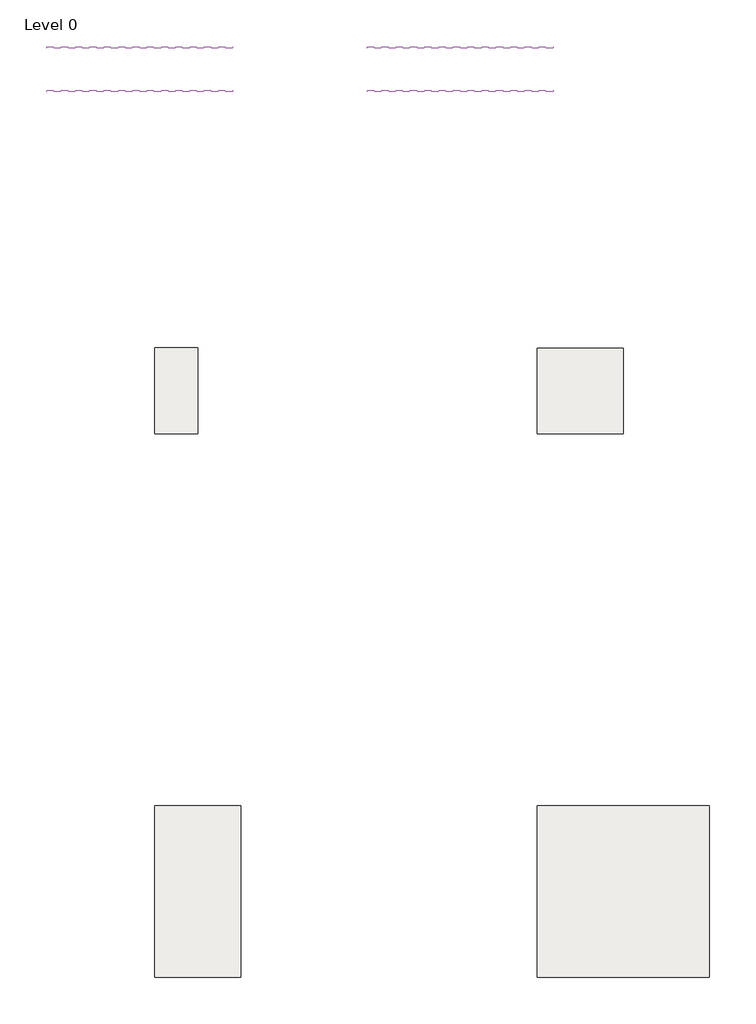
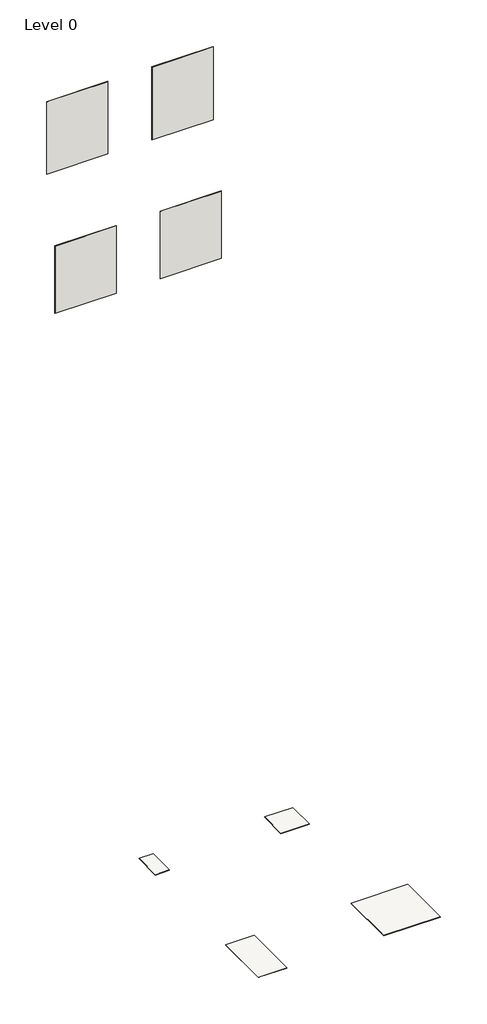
# One storey: 4 slabs, 4 walls.
"""IFC4 building model written with IfcOpenShell, lengths in millimetres."""

from ifc_helpers import new_model, si_unit, frame, origin, place, context, project, spatial, polyline, outline, extrude, element, save

model = new_model("IFC4")

# Units and contexts
model_context = context("Model", 3, world=origin())
ifc_project = project(units=[si_unit("LENGTHUNIT", "METRE", prefix="MILLI")], contexts=[model_context])

# Site, building, storey
site = spatial("IfcSite", under=ifc_project)
building = spatial("IfcBuilding", under=site)
storey = spatial("IfcBuildingStorey", under=building, Name="Level 0", Elevation=0.0)

# Slabs
placement = place(None, origin())
element("IfcSlab", 1, ObjectType="Floor_Tiles_Refin-Play-Greige-30x60 OC59", at=placement, inside=storey, context=model_context, shape_type="SweptSolid", body=[
    extrude(outline(polyline([(6974.3752062, 6039.4623743), (6974.3752062, 5439.4623743), (6674.3752062, 5439.4623743), (6674.3752062, 6039.4623743), (6974.3752062, 6039.4623743)])), frame((0.0, 0.0, -10.0), z_axis=(0.0, 0.0, 1.0), x_axis=(1.0, 0.0, 0.0)), (0.0, 0.0, 1.0), 10.0),
])
element("IfcSlab", 2, ObjectType="Floor_Tiles_Refin-Play-Greige-120x120 OC65", at=placement, inside=storey, context=model_context, shape_type="SweptSolid", body=[
    extrude(outline(polyline([(10547.3924055, 2839.4623743), (10547.3924055, 1639.4623743), (9347.3924055, 1639.4623743), (9347.3924055, 2839.4623743), (10547.3924055, 2839.4623743)])), frame((0.0, 0.0, -10.0), z_axis=(0.0, 0.0, 1.0), x_axis=(1.0, 0.0, 0.0)), (0.0, 0.0, 1.0), 10.0),
])
element("IfcSlab", 3, ObjectType="Floor_Tiles_Refin-Play-Greige-60x120 OC71", at=placement, inside=storey, context=model_context, shape_type="SweptSolid", body=[
    extrude(outline(polyline([(7274.3752062, 2839.4623743), (7274.3752062, 1639.4623743), (6674.3752062, 1639.4623743), (6674.3752062, 2839.4623743), (7274.3752062, 2839.4623743)])), frame((0.0, 0.0, -10.0), z_axis=(0.0, 0.0, 1.0), x_axis=(1.0, 0.0, 0.0)), (0.0, 0.0, 1.0), 10.0),
])
element("IfcSlab", 4, ObjectType="Floor_Tiles_Refin-Play-Greige-60x60 OC53", at=placement, inside=storey, context=model_context, shape_type="SweptSolid", body=[
    extrude(outline(polyline([(9947.3924055, 6038.4192064), (9947.3924055, 5438.4192064), (9347.3924055, 5438.4192064), (9347.3924055, 6038.4192064), (9947.3924055, 6038.4192064)])), frame((0.0, 0.0, -10.0), z_axis=(0.0, 0.0, 1.0), x_axis=(1.0, 0.0, 0.0)), (0.0, 0.0, 1.0), 10.0),
])

# Walls
element("IfcWall", 5, ObjectType="Wall_Tiles_Refin-Play-Greige-60x60 OC53", at=placement, inside=storey, context=model_context, shape_type="SweptSolid", body=[
    extrude(outline(polyline([(9457.3752062, 8132.3838631), (8157.3752062, 8132.3838631), (8157.3752062, 8142.3838631), (9457.3752062, 8142.3838631), (9457.3752062, 8132.3838631)])), frame((0.0, 0.0, 14387.6770443), z_axis=(0.0, 0.0, 1.0), x_axis=(1.0, 0.0, 0.0)), (0.0, 0.0, 1.0), 1641.7417352),
])
element("IfcWall", 6, ObjectType="Wall_Tiles_Refin-Play-Greige-30x60 OC59", at=placement, inside=storey, context=model_context, shape_type="SweptSolid", body=[
    extrude(outline(polyline([(7217.3752062, 8132.3838631), (5917.3752062, 8132.3838631), (5917.3752062, 8142.3838631), (7217.3752062, 8142.3838631), (7217.3752062, 8132.3838631)])), frame((0.0, 0.0, 14403.7267346), z_axis=(0.0, 0.0, 1.0), x_axis=(1.0, 0.0, 0.0)), (0.0, 0.0, 1.0), 1625.692045),
])
element("IfcWall", 7, ObjectType="Wall_Tiles_Refin-Play-Greige-60x120 OC71", at=placement, inside=storey, context=model_context, shape_type="SweptSolid", body=[
    extrude(outline(polyline([(7217.3752062, 7827.3838631), (5917.3752062, 7827.3838631), (5917.3752062, 7837.3838631), (7217.3752062, 7837.3838631), (7217.3752062, 7827.3838631)])), frame((0.0, 0.0, 11452.5436262), z_axis=(0.0, 0.0, 1.0), x_axis=(1.0, 0.0, 0.0)), (0.0, 0.0, 1.0), 1513.1985566),
])
element("IfcWall", 8, ObjectType="Wall_Tiles_Refin-Play-Greige-120x120 OC65", at=placement, inside=storey, context=model_context, shape_type="SweptSolid", body=[
    extrude(outline(polyline([(9457.3752062, 7827.3838631), (8157.3752062, 7827.3838631), (8157.3752062, 7837.3838631), (9457.3752062, 7837.3838631), (9457.3752062, 7827.3838631)])), frame((0.0, 0.0, 11452.5436262), z_axis=(0.0, 0.0, 1.0), x_axis=(1.0, 0.0, 0.0)), (0.0, 0.0, 1.0), 1513.1985566),
])

save(model, "model.ifc")
